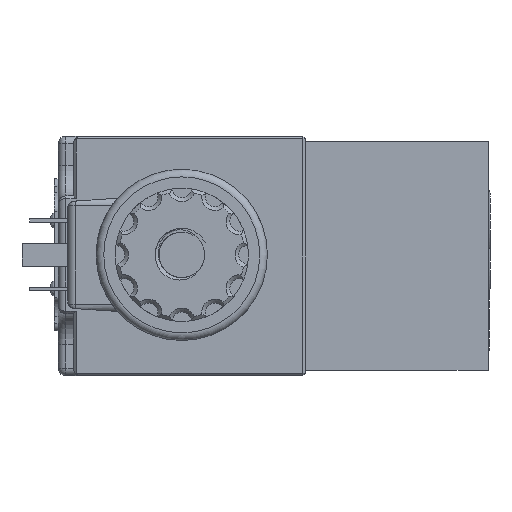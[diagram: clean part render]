
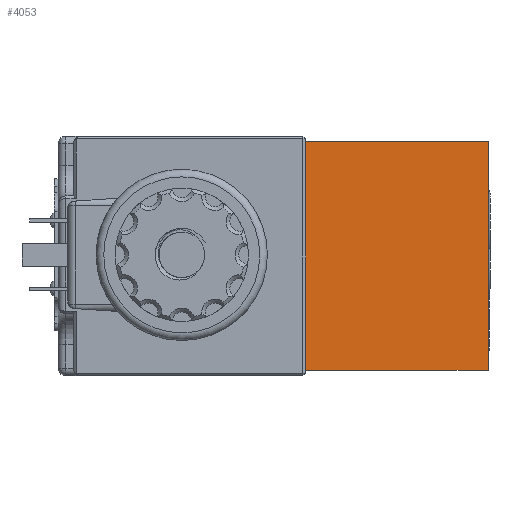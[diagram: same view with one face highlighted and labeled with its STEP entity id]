
A CAD part, left-side view. The second image highlights one B-rep face of the part: STEP entity #4053.
In plain terms, the highlighted planar face has unit normal (-1, 0, 0).
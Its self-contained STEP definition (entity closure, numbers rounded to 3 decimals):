
#2477=FACE_OUTER_BOUND('',#5244,.T.);
#2946=LINE('',#20920,#3454);
#2947=LINE('',#20923,#3455);
#2948=LINE('',#20925,#3456);
#2949=LINE('',#20927,#3457);
#3454=VECTOR('',#12722,1.);
#3455=VECTOR('',#12723,1.);
#3456=VECTOR('',#12724,1.);
#3457=VECTOR('',#12725,1.);
#4053=ADVANCED_FACE('',(#2477),#4606,.F.);
#4606=PLANE('',#11379);
#5244=EDGE_LOOP('',(#6354,#6355,#6356,#6357));
#6354=ORIENTED_EDGE('',*,*,#9632,.T.);
#6355=ORIENTED_EDGE('',*,*,#9633,.F.);
#6356=ORIENTED_EDGE('',*,*,#9634,.F.);
#6357=ORIENTED_EDGE('',*,*,#9635,.T.);
#8662=VERTEX_POINT('',#20921);
#8663=VERTEX_POINT('',#20922);
#8664=VERTEX_POINT('',#20924);
#8665=VERTEX_POINT('',#20926);
#9632=EDGE_CURVE('',#8662,#8663,#2946,.T.);
#9633=EDGE_CURVE('',#8664,#8663,#2947,.T.);
#9634=EDGE_CURVE('',#8665,#8664,#2948,.T.);
#9635=EDGE_CURVE('',#8665,#8662,#2949,.T.);
#11379=AXIS2_PLACEMENT_3D('',#20928,#12726,#12727);
#12722=DIRECTION('',(0.,0.,-1.));
#12723=DIRECTION('',(0.,1.,0.));
#12724=DIRECTION('',(0.,0.,-1.));
#12725=DIRECTION('',(0.,1.,0.));
#12726=DIRECTION('',(1.,0.,0.));
#12727=DIRECTION('',(0.,0.,1.));
#20920=CARTESIAN_POINT('',(479.975,158.418,29.7));
#20921=CARTESIAN_POINT('',(479.975,158.418,29.7));
#20922=CARTESIAN_POINT('',(479.975,158.418,-30.3));
#20923=CARTESIAN_POINT('',(479.975,110.418,-30.3));
#20924=CARTESIAN_POINT('',(479.975,110.418,-30.3));
#20925=CARTESIAN_POINT('',(479.975,110.418,29.7));
#20926=CARTESIAN_POINT('',(479.975,110.418,29.7));
#20927=CARTESIAN_POINT('',(479.975,110.418,29.7));
#20928=CARTESIAN_POINT('',(479.975,110.418,29.7));
